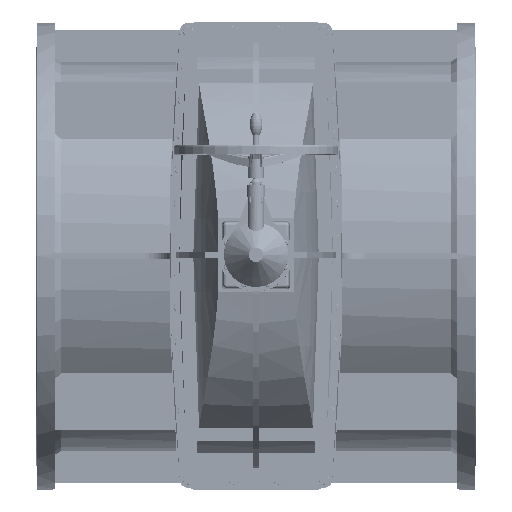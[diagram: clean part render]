
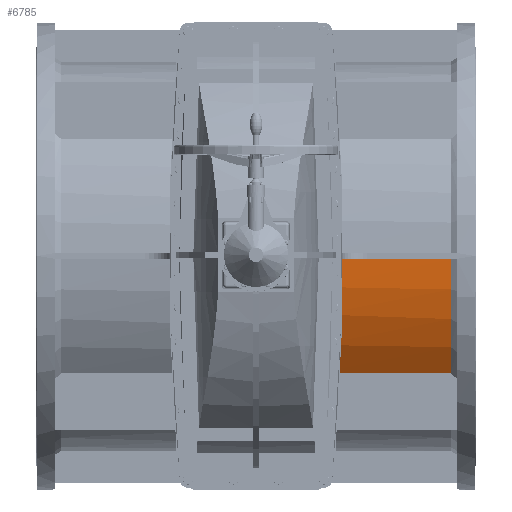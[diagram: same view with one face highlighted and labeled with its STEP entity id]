
A CAD part, top view. The second image highlights one B-rep face of the part: STEP entity #6785.
In plain terms, the highlighted cylindrical face has radius 619 mm (diameter 1238 mm), a partial arc.
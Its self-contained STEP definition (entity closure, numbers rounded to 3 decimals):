
#6785=ADVANCED_FACE('',(#11124),#11126,.T.);
#11124=FACE_BOUND('',#11125,.T.);
#11125=EDGE_LOOP('',(#27490,#27491,#27492,#27493));
#11126=CYLINDRICAL_SURFACE('',#11127,619.);
#11127=AXIS2_PLACEMENT_3D('',#11128,#11129,#11130);
#11128=CARTESIAN_POINT('',(638.,0.,0.));
#11129=DIRECTION('',(-1.,0.,0.));
#11130=DIRECTION('',(0.,1.,0.));
#27490=ORIENTED_EDGE('',*,*,#35792,.F.);
#27491=ORIENTED_EDGE('',*,*,#35921,.T.);
#27492=ORIENTED_EDGE('',*,*,#35922,.F.);
#27493=ORIENTED_EDGE('',*,*,#35923,.T.);
#35792=EDGE_CURVE('',#40154,#40156,#40157,.T.);
#35921=EDGE_CURVE('',#40154,#40373,#40375,.T.);
#35922=EDGE_CURVE('',#40376,#40373,#40377,.F.);
#35923=EDGE_CURVE('',#40376,#40156,#40378,.F.);
#40154=VERTEX_POINT('',#48102);
#40156=VERTEX_POINT('',#48113);
#40157=LINE('',#48114,#48115);
#40373=VERTEX_POINT('',#49155);
#40375=CIRCLE('',#49166,619.);
#40376=VERTEX_POINT('',#49170);
#40377=LINE('',#49171,#49172);
#40378=B_SPLINE_CURVE_WITH_KNOTS('',3,
(#49174,#49175,#49176,#49177,#49178,#49179,#49180,#49181,#49182,#49183,#49184,#49185,
#49186,#49187,#49188,#49189,#49190,#49191,#49192,#49193,#49194,#49195,#49196,#49197,
#49198,#49199,#49200,#49201,#49202,#49203,#49204,#49205,#49206,#49207,#49208,#49209,
#49210,#49211,#49212,#49213,#49214),
.UNSPECIFIED.,.F.,.F.,
(4,1,1,1,1,1,1,1,1,1,1,1,1,1,1,1,1,1,1,1,1,1,1,1,1,1,1,1,1,1,1,1,1,1,1,1,1,1,4),
(0.,0.014,0.028,0.043,0.058,0.074,
0.09,0.106,0.123,0.141,0.166,
0.193,0.221,0.244,0.267,0.292,
0.317,0.343,0.369,0.397,0.425,
0.464,0.504,0.544,0.574,0.605,
0.636,0.666,0.697,0.728,0.758,
0.789,0.819,0.85,0.88,0.91,
0.94,0.97,1.),
.UNSPECIFIED.);
#48102=CARTESIAN_POINT('',(619.,-371.594,495.054));
#48113=CARTESIAN_POINT('',(193.174,-371.594,495.054));
#48114=CARTESIAN_POINT('',(619.,-371.594,495.054));
#48115=VECTOR('',#48116,1.);
#48116=DIRECTION('',(-1.,0.,0.));
#49155=CARTESIAN_POINT('',(619.,-9.5,618.927));
#49166=AXIS2_PLACEMENT_3D('',#49167,#49168,#49169);
#49167=CARTESIAN_POINT('',(619.,0.,0.));
#49168=DIRECTION('',(-1.,0.,0.));
#49169=DIRECTION('',(0.,-0.6,0.8));
#49170=CARTESIAN_POINT('',(210.11,-9.5,618.927));
#49171=CARTESIAN_POINT('',(619.,-9.5,618.927));
#49172=VECTOR('',#49173,1.);
#49173=DIRECTION('',(-1.,0.,0.));
#49174=CARTESIAN_POINT('',(193.174,-371.594,495.054));
#49175=CARTESIAN_POINT('',(193.303,-370.131,496.153));
#49176=CARTESIAN_POINT('',(193.563,-367.171,498.354));
#49177=CARTESIAN_POINT('',(193.954,-362.663,501.644));
#49178=CARTESIAN_POINT('',(194.352,-358.023,504.967));
#49179=CARTESIAN_POINT('',(194.758,-353.244,508.322));
#49180=CARTESIAN_POINT('',(195.174,-348.276,511.74));
#49181=CARTESIAN_POINT('',(195.601,-343.116,515.214));
#49182=CARTESIAN_POINT('',(196.042,-337.711,518.774));
#49183=CARTESIAN_POINT('',(196.492,-332.109,522.379));
#49184=CARTESIAN_POINT('',(197.015,-325.511,526.523));
#49185=CARTESIAN_POINT('',(197.612,-317.823,531.209));
#49186=CARTESIAN_POINT('',(198.288,-308.894,536.454));
#49187=CARTESIAN_POINT('',(198.932,-300.173,541.378));
#49188=CARTESIAN_POINT('',(199.538,-291.73,545.968));
#49189=CARTESIAN_POINT('',(200.108,-283.6,550.237));
#49190=CARTESIAN_POINT('',(200.686,-275.138,554.519));
#49191=CARTESIAN_POINT('',(201.27,-266.324,558.807));
#49192=CARTESIAN_POINT('',(201.856,-257.207,563.063));
#49193=CARTESIAN_POINT('',(202.447,-247.691,567.316));
#49194=CARTESIAN_POINT('',(203.037,-237.842,571.517));
#49195=CARTESIAN_POINT('',(203.693,-226.437,576.147));
#49196=CARTESIAN_POINT('',(204.401,-213.5,581.082));
#49197=CARTESIAN_POINT('',(205.147,-198.977,586.216));
#49198=CARTESIAN_POINT('',(205.796,-185.394,590.638));
#49199=CARTESIAN_POINT('',(206.357,-172.845,594.418));
#49200=CARTESIAN_POINT('',(206.836,-161.411,597.624));
#49201=CARTESIAN_POINT('',(207.287,-149.874,600.622));
#49202=CARTESIAN_POINT('',(207.708,-138.251,603.403));
#49203=CARTESIAN_POINT('',(208.098,-126.57,605.961));
#49204=CARTESIAN_POINT('',(208.455,-114.852,608.291));
#49205=CARTESIAN_POINT('',(208.779,-103.11,610.391));
#49206=CARTESIAN_POINT('',(209.068,-91.363,612.259));
#49207=CARTESIAN_POINT('',(209.322,-79.621,613.896));
#49208=CARTESIAN_POINT('',(209.541,-67.903,615.302));
#49209=CARTESIAN_POINT('',(209.726,-56.198,616.481));
#49210=CARTESIAN_POINT('',(209.875,-44.509,617.435));
#49211=CARTESIAN_POINT('',(209.99,-32.827,618.166));
#49212=CARTESIAN_POINT('',(210.07,-21.16,618.675));
#49213=CARTESIAN_POINT('',(210.1,-13.385,618.867));
#49214=CARTESIAN_POINT('',(210.11,-9.5,618.927));
